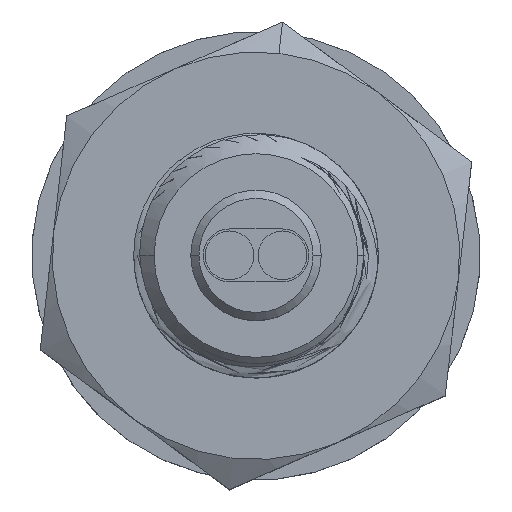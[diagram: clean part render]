
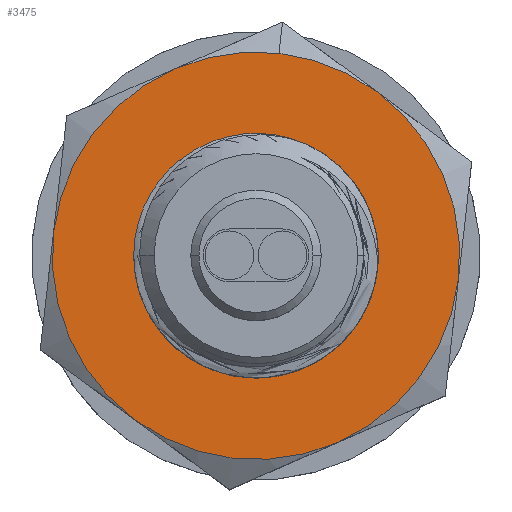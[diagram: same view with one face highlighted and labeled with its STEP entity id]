
A CAD part, top view. The second image highlights one B-rep face of the part: STEP entity #3475.
In plain terms, the highlighted planar face has unit normal (0, 0, 1).
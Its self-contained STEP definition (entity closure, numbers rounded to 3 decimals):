
#19 = CARTESIAN_POINT ( 'NONE',  ( -1.985, 0.153, 54.189 ) ) ;
#49 = CARTESIAN_POINT ( 'NONE',  ( -1.525, -2.811, 54.189 ) ) ;
#61 = DIRECTION ( 'NONE',  ( 0., 0., 1. ) ) ;
#83 = VERTEX_POINT ( 'NONE', #9973 ) ;
#149 = CARTESIAN_POINT ( 'NONE',  ( 0.962, 0.685, 54.189 ) ) ;
#621 = VERTEX_POINT ( 'NONE', #4016 ) ;
#725 = CARTESIAN_POINT ( 'NONE',  ( -1.985, 0.153, 54.189 ) ) ;
#780 = CARTESIAN_POINT ( 'NONE',  ( 0.317, -1.781, 54.189 ) ) ;
#1042 = DIRECTION ( 'NONE',  ( 0., 0., 1. ) ) ;
#1329 = DIRECTION ( 'NONE',  ( 0.994, -0.113, 0. ) ) ;
#1410 = AXIS2_PLACEMENT_3D ( 'NONE', #19, #61, #4718 ) ;
#1444 = EDGE_LOOP ( 'NONE', ( #10491, #5390, #3372, #4368, #4787, #11962, #3521 ) ) ;
#1489 = VERTEX_POINT ( 'NONE', #2603 ) ;
#1545 = VERTEX_POINT ( 'NONE', #6524 ) ;
#1570 = VERTEX_POINT ( 'NONE', #3738 ) ;
#1809 = EDGE_CURVE ( 'NONE', #9774, #3146, #11176, .T. ) ;
#1816 = EDGE_CURVE ( 'NONE', #3146, #1545, #7944, .T. ) ;
#1882 = CARTESIAN_POINT ( 'NONE',  ( -1.611, -2.817, 54.189 ) ) ;
#1955 = CARTESIAN_POINT ( 'NONE',  ( 0.975, 0.63, 54.189 ) ) ;
#1968 = AXIS2_PLACEMENT_3D ( 'NONE', #3515, #11895, #7236 ) ;
#2213 = DIRECTION ( 'NONE',  ( 0.994, -0.113, 0. ) ) ;
#2288 = CARTESIAN_POINT ( 'NONE',  ( -1.985, 0.153, 54.189 ) ) ;
#2397 = DIRECTION ( 'NONE',  ( 0., 0., 1. ) ) ;
#2437 = DIRECTION ( 'NONE',  ( 0., 0., -1. ) ) ;
#2546 = FACE_BOUND ( 'NONE', #8398, .T. ) ;
#2603 = CARTESIAN_POINT ( 'NONE',  ( 0.981, 0.602, 54.189 ) ) ;
#2984 = CARTESIAN_POINT ( 'NONE',  ( 0.981, 0.602, 54.189 ) ) ;
#2991 = AXIS2_PLACEMENT_3D ( 'NONE', #4152, #6863, #1329 ) ;
#3146 = VERTEX_POINT ( 'NONE', #3693 ) ;
#3339 = CARTESIAN_POINT ( 'NONE',  ( 0.012, -4.431, 54.189 ) ) ;
#3351 = AXIS2_PLACEMENT_3D ( 'NONE', #9767, #7988, #7951 ) ;
#3372 = ORIENTED_EDGE ( 'NONE', *, *, #8539, .T. ) ;
#3475 = ADVANCED_FACE ( 'NONE', ( #2546, #4870 ), #10564, .T. ) ;
#3515 = CARTESIAN_POINT ( 'NONE',  ( -1.985, 0.153, 54.189 ) ) ;
#3521 = ORIENTED_EDGE ( 'NONE', *, *, #11255, .T. ) ;
#3546 = CARTESIAN_POINT ( 'NONE',  ( -0.595, -2.512, 54.189 ) ) ;
#3593 = CARTESIAN_POINT ( 'NONE',  ( 1.011, 0.407, 54.189 ) ) ;
#3612 = EDGE_CURVE ( 'NONE', #621, #7326, #8799, .T. ) ;
#3678 = EDGE_CURVE ( 'NONE', #8201, #1489, #6688, .T. ) ;
#3693 = CARTESIAN_POINT ( 'NONE',  ( -6.953, 0.716, 54.189 ) ) ;
#3738 = CARTESIAN_POINT ( 'NONE',  ( 0.962, 0.685, 54.189 ) ) ;
#3787 = CIRCLE ( 'NONE', #7765, 5. ) ;
#4016 = CARTESIAN_POINT ( 'NONE',  ( -1.611, -2.817, 54.189 ) ) ;
#4119 = B_SPLINE_CURVE_WITH_KNOTS ( 'NONE', 3,
 ( #1882, #7481, #6539, #49 ),
 .UNSPECIFIED., .F., .F.,
 ( 4, 4 ),
 ( 0.005, 0.006 ),
 .UNSPECIFIED. ) ;
#4152 = CARTESIAN_POINT ( 'NONE',  ( -1.985, 0.153, 54.189 ) ) ;
#4368 = ORIENTED_EDGE ( 'NONE', *, *, #9467, .T. ) ;
#4524 = EDGE_CURVE ( 'NONE', #7034, #83, #3787, .T. ) ;
#4573 = CARTESIAN_POINT ( 'NONE',  ( 0.881, -0.755, 54.189 ) ) ;
#4678 = EDGE_CURVE ( 'NONE', #7326, #1570, #8315, .T. ) ;
#4718 = DIRECTION ( 'NONE',  ( 0.994, -0.113, 0. ) ) ;
#4787 = ORIENTED_EDGE ( 'NONE', *, *, #1809, .T. ) ;
#4870 = FACE_OUTER_BOUND ( 'NONE', #1444, .T. ) ;
#5084 = CARTESIAN_POINT ( 'NONE',  ( -1.985, 0.153, 54.189 ) ) ;
#5188 = ORIENTED_EDGE ( 'NONE', *, *, #3678, .F. ) ;
#5251 = EDGE_CURVE ( 'NONE', #1489, #1570, #12064, .T. ) ;
#5313 = CARTESIAN_POINT ( 'NONE',  ( -3.981, 4.737, 54.189 ) ) ;
#5348 = CARTESIAN_POINT ( 'NONE',  ( 1.003, -0.181, 54.189 ) ) ;
#5390 = ORIENTED_EDGE ( 'NONE', *, *, #4524, .T. ) ;
#5718 = CARTESIAN_POINT ( 'NONE',  ( 0.969, 0.658, 54.189 ) ) ;
#6271 = DIRECTION ( 'NONE',  ( 0.994, -0.113, 0. ) ) ;
#6285 = AXIS2_PLACEMENT_3D ( 'NONE', #11861, #2437, #6271 ) ;
#6292 = CARTESIAN_POINT ( 'NONE',  ( -1.33, -2.781, 54.189 ) ) ;
#6421 = CARTESIAN_POINT ( 'NONE',  ( 0.981, 0.602, 54.189 ) ) ;
#6524 = CARTESIAN_POINT ( 'NONE',  ( -4.956, -3.868, 54.189 ) ) ;
#6539 = CARTESIAN_POINT ( 'NONE',  ( -1.554, -2.814, 54.189 ) ) ;
#6675 = ORIENTED_EDGE ( 'NONE', *, *, #9986, .F. ) ;
#6688 = B_SPLINE_CURVE_WITH_KNOTS ( 'NONE', 3,
 ( #8290, #6292, #11884, #11998, #3546, #7187, #10154, #10110, #780, #7308, #7352, #9984, #4573, #9048, #5348, #10971, #3593, #6421 ),
 .UNSPECIFIED., .F., .F.,
 ( 4, 2, 2, 2, 2, 2, 2, 2, 4 ),
 ( 0., 0.001, 0.001, 0.002, 0.002, 0.003, 0.004, 0.004, 0.005 ),
 .UNSPECIFIED. ) ;
#6700 = AXIS2_PLACEMENT_3D ( 'NONE', #725, #7128, #11912 ) ;
#6808 = CIRCLE ( 'NONE', #6700, 5. ) ;
#6849 = DIRECTION ( 'NONE',  ( 0., 0., 1. ) ) ;
#6863 = DIRECTION ( 'NONE',  ( 0., 0., 1. ) ) ;
#6871 = ORIENTED_EDGE ( 'NONE', *, *, #3612, .T. ) ;
#7000 = CARTESIAN_POINT ( 'NONE',  ( -1.985, 0.153, 54.189 ) ) ;
#7034 = VERTEX_POINT ( 'NONE', #10746 ) ;
#7051 = CARTESIAN_POINT ( 'NONE',  ( -1.525, -2.811, 54.189 ) ) ;
#7128 = DIRECTION ( 'NONE',  ( 0., 0., 1. ) ) ;
#7187 = CARTESIAN_POINT ( 'NONE',  ( -0.26, -2.309, 54.189 ) ) ;
#7236 = DIRECTION ( 'NONE',  ( 0.994, -0.113, 0. ) ) ;
#7308 = CARTESIAN_POINT ( 'NONE',  ( 0.55, -1.464, 54.189 ) ) ;
#7326 = VERTEX_POINT ( 'NONE', #11364 ) ;
#7352 = CARTESIAN_POINT ( 'NONE',  ( 0.65, -1.295, 54.189 ) ) ;
#7403 = AXIS2_PLACEMENT_3D ( 'NONE', #2288, #7933, #8827 ) ;
#7481 = CARTESIAN_POINT ( 'NONE',  ( -1.582, -2.816, 54.189 ) ) ;
#7654 = AXIS2_PLACEMENT_3D ( 'NONE', #5084, #6849, #2213 ) ;
#7765 = AXIS2_PLACEMENT_3D ( 'NONE', #7000, #2397, #8826 ) ;
#7933 = DIRECTION ( 'NONE',  ( 0., 0., 1. ) ) ;
#7944 = CIRCLE ( 'NONE', #1410, 5. ) ;
#7951 = DIRECTION ( 'NONE',  ( 0.994, -0.113, 0. ) ) ;
#7988 = DIRECTION ( 'NONE',  ( 0., 0., -1. ) ) ;
#8004 = VERTEX_POINT ( 'NONE', #8540 ) ;
#8112 = CIRCLE ( 'NONE', #1968, 5. ) ;
#8118 = AXIS2_PLACEMENT_3D ( 'NONE', #11289, #1042, #9396 ) ;
#8201 = VERTEX_POINT ( 'NONE', #7051 ) ;
#8290 = CARTESIAN_POINT ( 'NONE',  ( -1.525, -2.811, 54.189 ) ) ;
#8293 = EDGE_CURVE ( 'NONE', #11834, #7034, #6808, .T. ) ;
#8315 = CIRCLE ( 'NONE', #6285, 2.994 ) ;
#8398 = EDGE_LOOP ( 'NONE', ( #6675, #6871, #9160, #10866, #5188 ) ) ;
#8539 = EDGE_CURVE ( 'NONE', #83, #8004, #8112, .T. ) ;
#8540 = CARTESIAN_POINT ( 'NONE',  ( -1.422, 5.122, 54.189 ) ) ;
#8799 = CIRCLE ( 'NONE', #3351, 2.994 ) ;
#8826 = DIRECTION ( 'NONE',  ( 0.994, -0.113, 0. ) ) ;
#8827 = DIRECTION ( 'NONE',  ( 0.994, -0.113, 0. ) ) ;
#8958 = CIRCLE ( 'NONE', #7403, 5. ) ;
#9048 = CARTESIAN_POINT ( 'NONE',  ( 0.975, -0.374, 54.189 ) ) ;
#9160 = ORIENTED_EDGE ( 'NONE', *, *, #4678, .T. ) ;
#9396 = DIRECTION ( 'NONE',  ( 0.994, -0.113, 0. ) ) ;
#9467 = EDGE_CURVE ( 'NONE', #8004, #9774, #8958, .T. ) ;
#9767 = CARTESIAN_POINT ( 'NONE',  ( -1.985, 0.153, 54.189 ) ) ;
#9774 = VERTEX_POINT ( 'NONE', #5313 ) ;
#9973 = CARTESIAN_POINT ( 'NONE',  ( 0.987, 4.175, 54.189 ) ) ;
#9984 = CARTESIAN_POINT ( 'NONE',  ( 0.815, -0.942, 54.189 ) ) ;
#9986 = EDGE_CURVE ( 'NONE', #621, #8201, #4119, .T. ) ;
#10110 = CARTESIAN_POINT ( 'NONE',  ( 0.186, -1.926, 54.189 ) ) ;
#10154 = CARTESIAN_POINT ( 'NONE',  ( -0.101, -2.19, 54.189 ) ) ;
#10411 = CIRCLE ( 'NONE', #7654, 5. ) ;
#10491 = ORIENTED_EDGE ( 'NONE', *, *, #8293, .T. ) ;
#10564 = PLANE ( 'NONE',  #2991 ) ;
#10746 = CARTESIAN_POINT ( 'NONE',  ( 2.983, -0.409, 54.189 ) ) ;
#10866 = ORIENTED_EDGE ( 'NONE', *, *, #5251, .F. ) ;
#10971 = CARTESIAN_POINT ( 'NONE',  ( 1.021, 0.209, 54.189 ) ) ;
#11176 = CIRCLE ( 'NONE', #8118, 5. ) ;
#11255 = EDGE_CURVE ( 'NONE', #1545, #11834, #10411, .T. ) ;
#11289 = CARTESIAN_POINT ( 'NONE',  ( -1.985, 0.153, 54.189 ) ) ;
#11364 = CARTESIAN_POINT ( 'NONE',  ( -4.96, 0.49, 54.189 ) ) ;
#11834 = VERTEX_POINT ( 'NONE', #3339 ) ;
#11861 = CARTESIAN_POINT ( 'NONE',  ( -1.985, 0.153, 54.189 ) ) ;
#11884 = CARTESIAN_POINT ( 'NONE',  ( -1.138, -2.731, 54.189 ) ) ;
#11895 = DIRECTION ( 'NONE',  ( 0., 0., 1. ) ) ;
#11912 = DIRECTION ( 'NONE',  ( -0.113, -0.994, 0. ) ) ;
#11962 = ORIENTED_EDGE ( 'NONE', *, *, #1816, .T. ) ;
#11998 = CARTESIAN_POINT ( 'NONE',  ( -0.77, -2.597, 54.189 ) ) ;
#12064 = B_SPLINE_CURVE_WITH_KNOTS ( 'NONE', 3,
 ( #2984, #1955, #5718, #149 ),
 .UNSPECIFIED., .F., .F.,
 ( 4, 4 ),
 ( 0., 0. ),
 .UNSPECIFIED. ) ;
